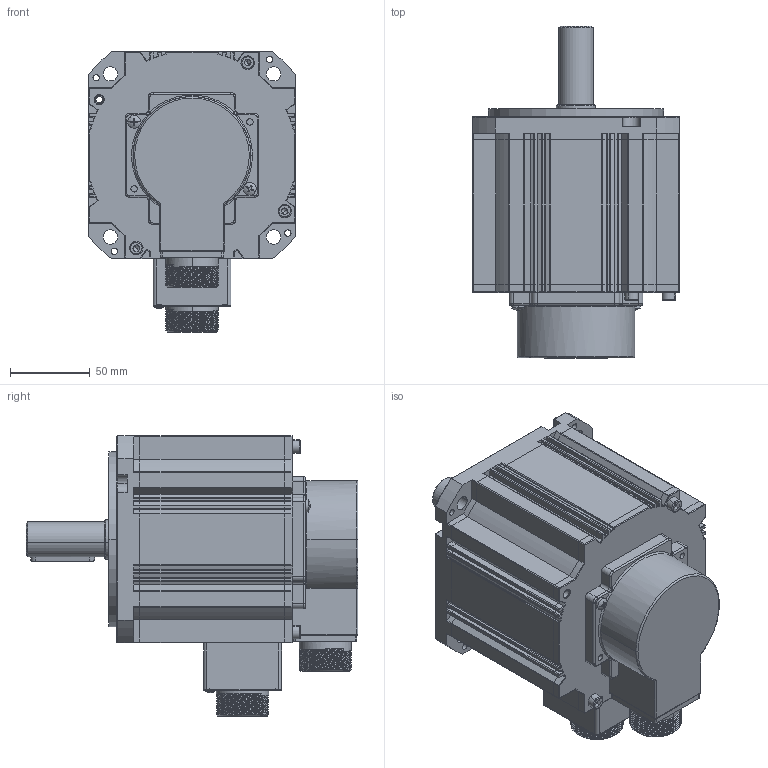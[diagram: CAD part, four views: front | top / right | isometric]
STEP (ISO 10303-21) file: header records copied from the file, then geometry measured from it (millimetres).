
FILE_DESCRIPTION (( 'STEP AP203' ), '1' );
FILE_NAME ('BMR-G11B13020-ÎÞ±§Õ¢.STEP', '2024-03-12T02:01:47', ( '' ), ( '' ), 'SwSTEP 2.0', 'SolidWorks 2018', '' );
FILE_SCHEMA (( 'CONFIG_CONTROL_DESIGN' ));
Length unit declared in the file: millimetre
Products named in the file (17): 晤鎢欶裔; deep groove ball bearings gb_Rolling bearings 6204 GB 276-94; BMR-G11B13020-拸惕掅; 晤鎢ん; ヶ傷裔; 粣; 綴傷裔; 瑤脣窒煦; cross recessed pan head screws gb_GB_CROSS_SCREWS_TYPE1 M3X12-12  H type-N; 脣釱1; hexagon socket head cap screws gb_GB_FASTENER_SCREWS_HSHCS M5X20-N; 瑤脣裔; 蛌赽軞傖; 盓傅啣; cross recessed pan head screws gb_GB_CROSS_SCREWS_TYPE1 M4X12-12  H type-N; deep groove ball bearings gb_Rolling bearings 6205 GB 276-94; jike
Assembly tree (21 placements, depth 3):
  BMR-G11B13020-拸惕掅
    jike
    瑤脣窒煦
      瑤脣裔
      脣釱1
      盓傅啣
    ヶ傷裔
    綴傷裔
    晤鎢欶裔
    脣釱1
    hexagon socket head cap screws gb_GB_FASTENER_SCREWS_HSHCS M5X20-N  x4
    cross recessed pan head screws gb_GB_CROSS_SCREWS_TYPE1 M4X12-12  H type-N  x2
    cross recessed pan head screws gb_GB_CROSS_SCREWS_TYPE1 M3X12-12  H type-N
    蛌赽軞傖
      粣
      deep groove ball bearings gb_Rolling bearings 6205 GB 276-94
      deep groove ball bearings gb_Rolling bearings 6204 GB 276-94
    晤鎢ん
Bounding box: 130 x 208.5 x 176 mm (x, y, z)
Volume: 821749.9 mm3; surface area: 331945.8 mm2
Topology: 19 solids, 19 shells, 2250 faces, 6131 edges, 3867 vertices
Faces by surface type: cylinder 977, plane 646, torus 377, bspline 120, sphere 88, cone 42
Entity records: 76765 total; most frequent: CARTESIAN_POINT 24352, ORIENTED_EDGE 10880, DIRECTION 10575, EDGE_CURVE 5440, AXIS2_PLACEMENT_3D 4222, VERTEX_POINT 3429, CIRCLE 2268, EDGE_LOOP 2213
